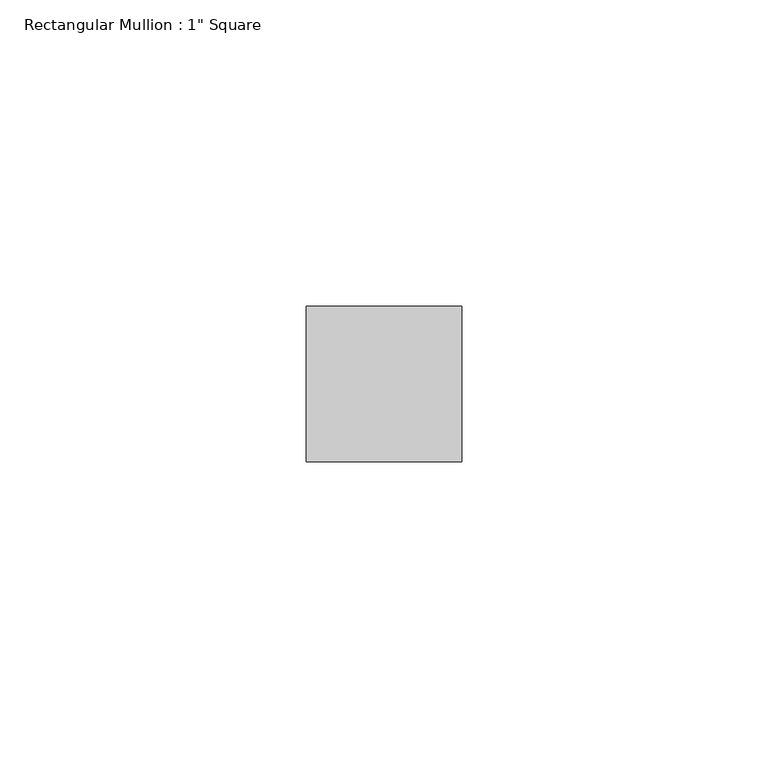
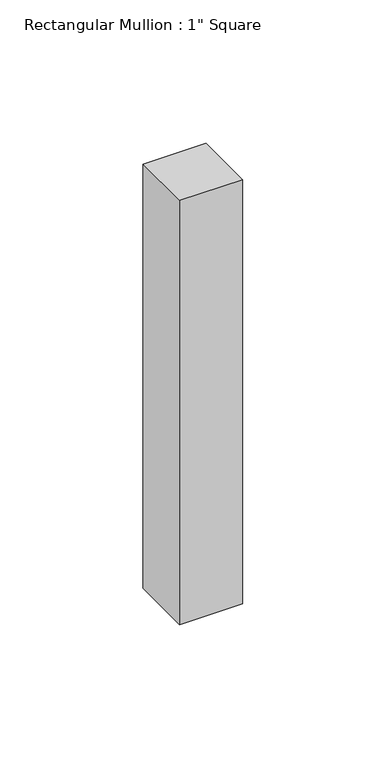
"""IFC4 building model written with IfcOpenShell, lengths in millimetres: member geometry."""

from ifc_helpers import new_model, si_unit, frame, origin, place, context, project, spatial, polyline, outline, extrude, source, transform, mapped, element, save


def member_ab9de9a3(model_context):
    return source(origin(), model_context, "Body", "SweptSolid", [
        extrude(outline(polyline([(12.7, 12.7), (12.7, -12.7), (-12.7, -12.7), (-12.7, 12.7), (12.7, 12.7)])), frame((0.0, 0.0, -180.6246149), z_axis=(0.0, 0.0, 1.0), x_axis=(1.0, 0.0, 0.0)), (0.0, 0.0, 1.0), 180.6246149),
    ])


if __name__ == "__main__":
    model = new_model("IFC4")
    model_context = context("Model", 3, world=origin())
    ifc_project = project(units=[si_unit("LENGTHUNIT", "METRE", prefix="MILLI")], contexts=[model_context])
    site = spatial("IfcSite", under=ifc_project)
    building = spatial("IfcBuilding", under=site)
    placement = place(None, origin())
    member_shape = member_ab9de9a3(model_context)
    element("IfcMember", 1, ObjectType="Rectangular Mullion : 1\" Square", at=placement, inside=building, context=model_context, shape_type="MappedRepresentation", body=[
        mapped(member_shape, transform((0.0, 0.0, 0.0), x_axis=(1.0, 0.0, 0.0), y_axis=(0.0, 1.0, 0.0), z_axis=(0.0, 0.0, 1.0))),
    ])
    save(model, "model.ifc")
